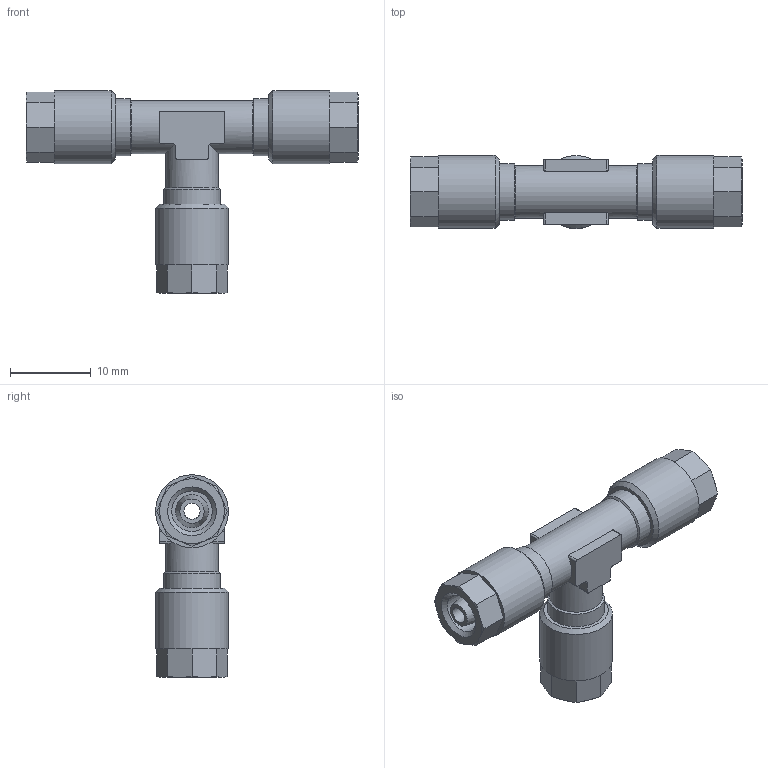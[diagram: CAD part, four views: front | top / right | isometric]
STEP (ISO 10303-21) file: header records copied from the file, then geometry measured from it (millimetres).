
FILE_DESCRIPTION(/* description */ (''),/* implementation_level */ '2;1');
FILE_NAME(/* name */ '12302_309_53_02.02.17',/* time_stamp */ '2017-02-02T09:06:57+01:00',/* author */ (''),/* organization */ (''),/* preprocessor_version */ 'ST-DEVELOPER v16.5',/* originating_system */ 'HiCAD 2016 2102.0 Build 402',/* authorisation */ '');
FILE_SCHEMA (('AUTOMOTIVE_DESIGN { 1 0 10303 214 1 1 1 1 }'));
Length unit declared in the file: millimetre
Products named in the file (5): Root; 17003; R12302
Assembly tree (4 placements, depth 2):
  Root
    17003
    17003
    17003
    R12302
Bounding box: 41 x 9 x 25 mm (x, y, z)
Volume: 2633.9 mm3; surface area: 3248.1 mm2
Topology: 4 solids, 4 shells, 143 faces, 347 edges, 220 vertices
Faces by surface type: plane 60, cone 45, cylinder 35, torus 3
Full cylindrical faces by diameter (mm): 2 x2, 3.7 x3, 5 x3, 6.08 x3, 6.5 x2, 7 x3, 9 x3
Entity records: 9486 total; most frequent: CARTESIAN_POINT 3452, DIRECTION 718, PRESENTATION_STYLE_ASSIGNMENT 566, COLOUR_RGB 563, DRAUGHTING_PRE_DEFINED_CURVE_FONT 562, CURVE_STYLE 562, OVER_RIDING_STYLED_ITEM 562, ORIENTED_EDGE 562
